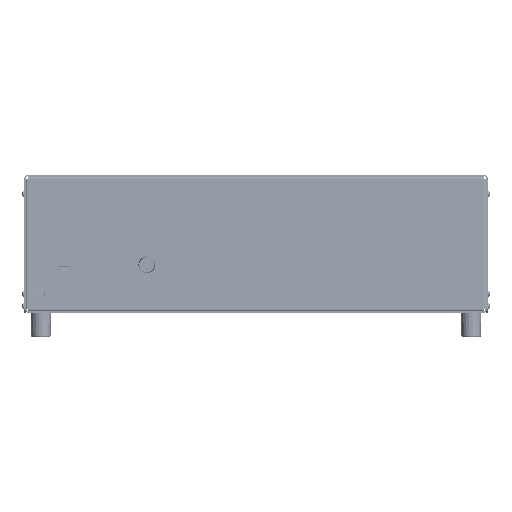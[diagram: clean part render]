
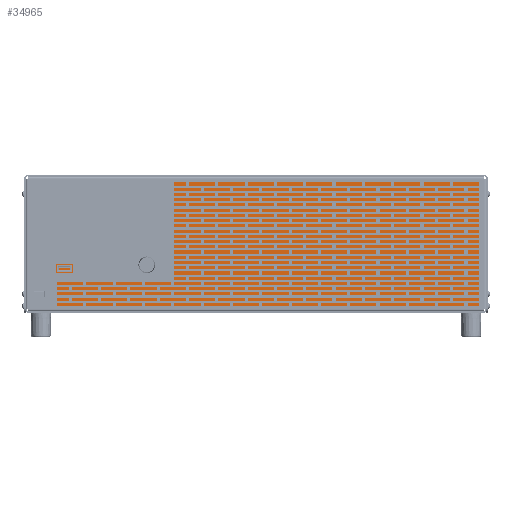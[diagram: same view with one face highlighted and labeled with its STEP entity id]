
A CAD part, front view. The second image highlights one B-rep face of the part: STEP entity #34965.
In plain terms, the highlighted planar face has unit normal (0, -1, 0).
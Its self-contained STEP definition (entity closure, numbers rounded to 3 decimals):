
#34965=ADVANCED_FACE('',(#71688),#71689,.T.);
#71688=FACE_OUTER_BOUND('',#128874,.T.);
#71689=PLANE('',#128875);
#128874=EDGE_LOOP('',(#227195,#227196,#227197,#227198));
#128875=AXIS2_PLACEMENT_3D('',#227199,#227200,#227201);
#227195=ORIENTED_EDGE('',*,*,#273271,.T.);
#227196=ORIENTED_EDGE('',*,*,#273272,.T.);
#227197=ORIENTED_EDGE('',*,*,#273273,.T.);
#227198=ORIENTED_EDGE('',*,*,#273274,.T.);
#227199=CARTESIAN_POINT('',(213.45,0.15,62.8));
#227200=DIRECTION('',(0.0,-1.0,0.0));
#227201=DIRECTION('',(1.0,0.0,0.0));
#273271=EDGE_CURVE('',#342364,#342365,#342366,.T.);
#273272=EDGE_CURVE('',#342365,#342367,#342368,.T.);
#273273=EDGE_CURVE('',#342367,#342369,#342370,.T.);
#273274=EDGE_CURVE('',#342369,#342364,#342371,.T.);
#342364=VERTEX_POINT('',#442960);
#342365=VERTEX_POINT('',#442961);
#342366=LINE('',#442962,#442963);
#342367=VERTEX_POINT('',#442964);
#342368=LINE('',#442965,#442966);
#342369=VERTEX_POINT('',#442967);
#342370=LINE('',#442968,#442969);
#342371=LINE('',#442970,#442971);
#442960=CARTESIAN_POINT('',(428.9,0.15,3.5));
#442961=CARTESIAN_POINT('',(428.9,0.15,125.1));
#442962=CARTESIAN_POINT('',(428.9,0.15,62.8));
#442963=VECTOR('',#486641,1.0);
#442964=CARTESIAN_POINT('',(-2.,0.15,125.1));
#442965=CARTESIAN_POINT('',(213.45,0.15,125.1));
#442966=VECTOR('',#486642,1.0);
#442967=CARTESIAN_POINT('',(-2.,0.15,3.5));
#442968=CARTESIAN_POINT('',(-2.,0.15,62.8));
#442969=VECTOR('',#486643,1.0);
#442970=CARTESIAN_POINT('',(213.45,0.15,3.5));
#442971=VECTOR('',#486644,1.0);
#486641=DIRECTION('',(0.0,0.0,1.0));
#486642=DIRECTION('',(-1.0,0.0,0.0));
#486643=DIRECTION('',(0.0,0.0,-1.0));
#486644=DIRECTION('',(1.0,0.0,0.0));
